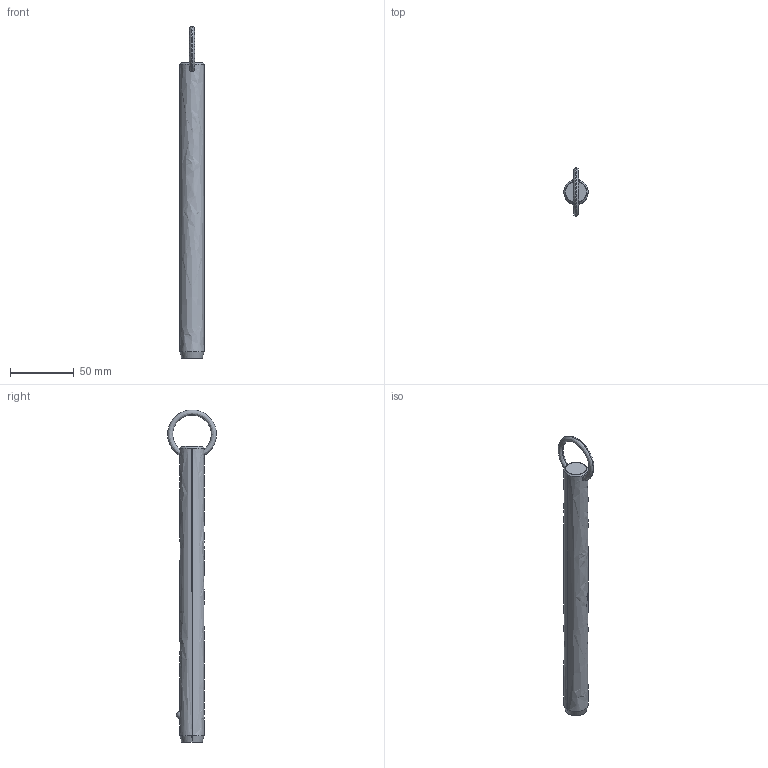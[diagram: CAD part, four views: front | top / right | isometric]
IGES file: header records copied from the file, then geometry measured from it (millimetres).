
Start section: SolidWorks IGES file using analytic representation for surfaces
Global section: file name: C:\Users\liam_\OneDrive\Documents\WORK\Work for WixRoyd\Job Files\J-00019 - Matt Davis CAD Checking\04. CAD Drawings\automotion20190605\P1250.2_v2\P1250.2_v2_20190729_IGES\P1250.075-780.igs; native system: SolidWorks 2017; preprocessor: SolidWorks 2017; author: liam_; date: 190730.000313; units: millimetre
Bounding box: 19 x 38.1 x 259.91 mm (x, y, z)
Surface area: 15340.4 mm2 (no closed solid volume)
Topology: 0 solids, 0 shells, 12 faces, 294 edges, 292 vertices
Faces by surface type: revolution 8, bspline 4
